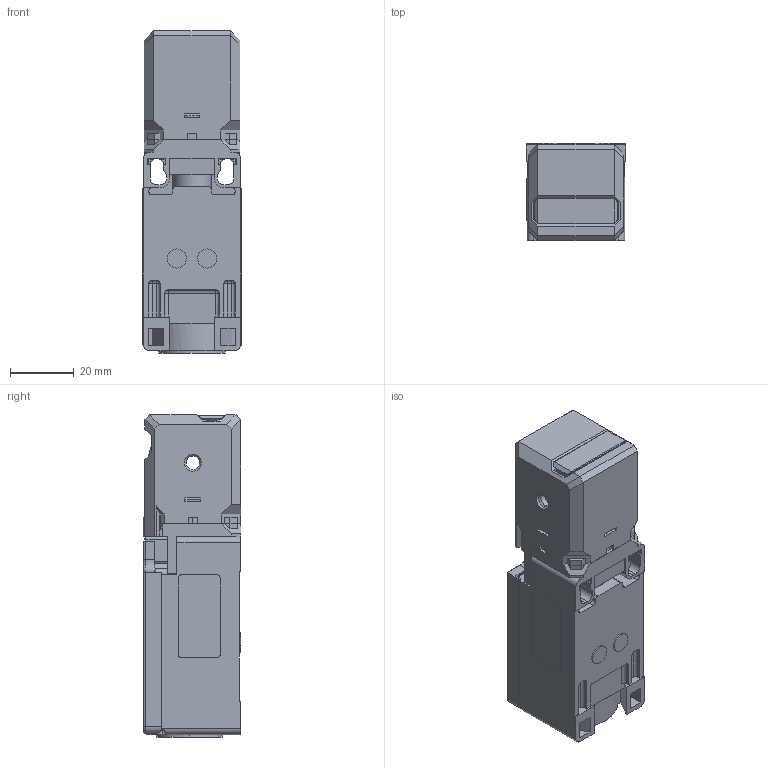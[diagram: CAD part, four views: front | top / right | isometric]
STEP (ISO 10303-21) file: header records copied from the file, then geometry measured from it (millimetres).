
FILE_DESCRIPTION((''),'2;1');
FILE_NAME('6016869189_SW0001','2024-10-31T11:10:01',('Rudolf.Poettker'),(''),'CREO PARAMETRIC BY PTC INC, 2022124','CREO PARAMETRIC BY PTC INC, 2022124','');
FILE_SCHEMA(('AUTOMOTIVE_DESIGN { 1 0 10303 214 1 1 1 1 }'));
Length unit declared in the file: millimetre
Products named in the file (1): 6016869189_SW0001
Bounding box: 31 x 30.55 x 100.8 mm (x, y, z)
Volume: 65538.7 mm3; surface area: 25580.6 mm2
Topology: 1 solids, 1 shells, 1039 faces, 2896 edges, 1805 vertices
Faces by surface type: plane 699, cylinder 253, sphere 34, torus 29, cone 24
Entity records: 51304 total; most frequent: CARTESIAN_POINT 6838, ORIENTED_EDGE 5764, DIRECTION 5540, PRESENTATION_STYLE_ASSIGNMENT 3926, STYLED_ITEM 2887, CURVE_STYLE 2886, EDGE_CURVE 2882, VECTOR 2083
